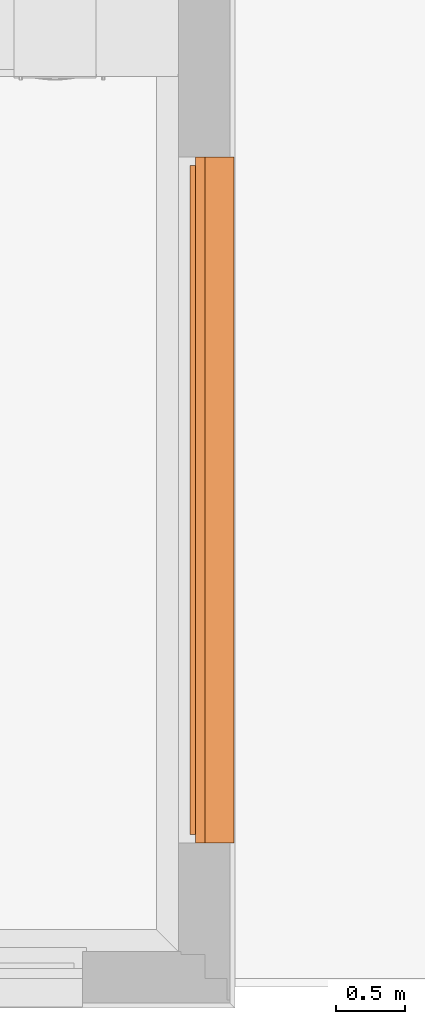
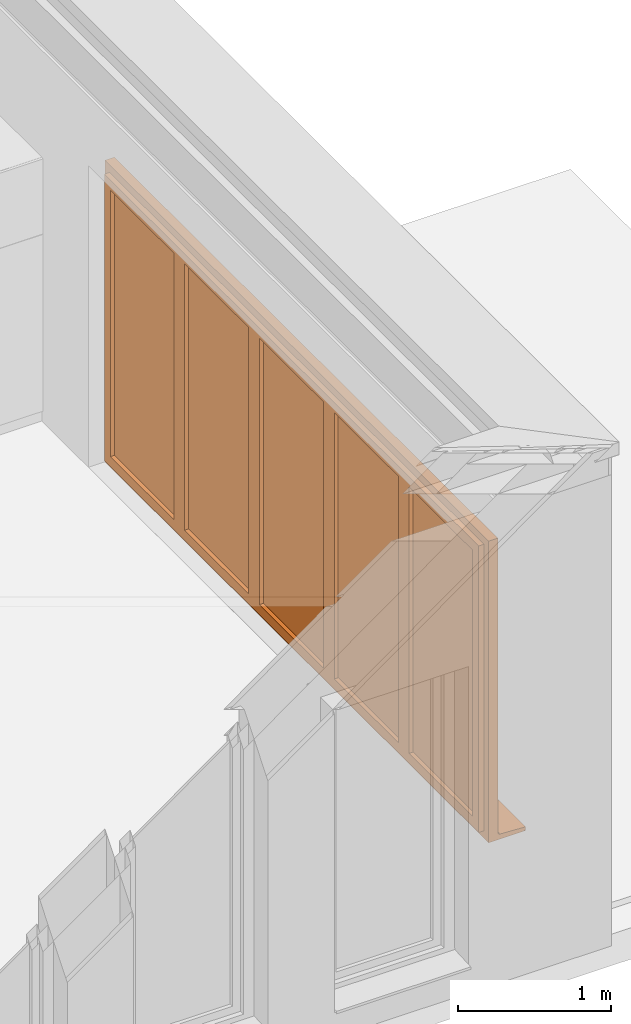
# One storey, part 24 of 28: 1 proxy.
"""IFC4 building model written with IfcOpenShell, lengths in metres."""

from ifc_helpers import new_model, entity, si_unit, converted_unit, derived_unit, direction, frame, origin_with_axes, place, context, subcontext, project, spatial, triangles, type_object, element, save


model = new_model("IFC4")

# Units and contexts
model_context = context("Model", 3, precision=1e-05, world=origin_with_axes(), true_north=direction((-0.526213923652, 0.850352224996)))
body_context = subcontext(model_context, "Body", "Model", "MODEL_VIEW")
ifc_project = project(units=[si_unit("LENGTHUNIT", "METRE"), si_unit("AREAUNIT", "SQUARE_METRE"), si_unit("VOLUMEUNIT", "CUBIC_METRE"), converted_unit("PLANEANGLEUNIT", "DEGREE", entity("IfcPlaneAngleMeasure", 0.0174532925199), si_unit("PLANEANGLEUNIT", "RADIAN"), dimensions=[0, 0, 0, 0, 0, 0, 0]), si_unit("SOLIDANGLEUNIT", "STERADIAN"), converted_unit("TIMEUNIT", "Year", entity("IfcTimeMeasure", 31556926.0), si_unit("TIMEUNIT", "SECOND"), dimensions=[0, 0, 1, 0, 0, 0, 0]), si_unit("MASSUNIT", "GRAM", prefix="KILO"), si_unit("THERMODYNAMICTEMPERATUREUNIT", "DEGREE_CELSIUS"), si_unit("LUMINOUSINTENSITYUNIT", "LUMEN"), si_unit("ENERGYUNIT", "JOULE", prefix="MEGA"), derived_unit("THERMALCONDUCTANCEUNIT", [(si_unit("POWERUNIT", "WATT"), 1), (si_unit("LENGTHUNIT", "METRE"), -1), (si_unit("THERMODYNAMICTEMPERATUREUNIT", "KELVIN"), -1)]), derived_unit("SPECIFICHEATCAPACITYUNIT", [(si_unit("ENERGYUNIT", "JOULE"), 1), (si_unit("MASSUNIT", "GRAM", prefix="KILO"), -1), (si_unit("THERMODYNAMICTEMPERATUREUNIT", "KELVIN"), -1)]), derived_unit("MASSDENSITYUNIT", [(si_unit("MASSUNIT", "GRAM", prefix="KILO"), 1), (si_unit("VOLUMEUNIT", "CUBIC_METRE"), -1)])], contexts=[model_context])

# Site, building, storey
site_placement = place(None, origin_with_axes())
site = spatial("IfcSite", under=ifc_project, at=site_placement, Name="Gelände", CompositionType="ELEMENT")
building_placement = place(site_placement, origin_with_axes())
building = spatial("IfcBuilding", under=site, at=building_placement, Name="Haus vom Nikolaus", CompositionType="ELEMENT")
storey_placement = place(building_placement, origin_with_axes())
storey = spatial("IfcBuildingStorey", under=building, at=storey_placement, Name="EG", CompositionType="ELEMENT", Elevation=0.0)

# Proxy
building_element_proxy_type = type_object("IfcBuildingElementProxyType", Name="5-Flügelfenster 22", PredefinedType="NOTDEFINED")
proxy_placement = place(storey_placement, frame((11.0649976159, 1.05243985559, 0.2), z_axis=(0.0, 0.0, 1.0), x_axis=(0.0, 1.0, 0.0)))
element("IfcBuildingElementProxy", 1, at=proxy_placement, inside=storey, type_object=building_element_proxy_type, Name="Fenster-010", PredefinedType="NOTDEFINED", context=body_context, shape_type="Tessellation", body=[
    triangles([(5.0, -0.195, 0.05), (0.0, -0.195, 0.0), (0.0, -0.195, 0.05), (5.0, -0.195, 0.0), (0.0, -0.205, 0.04), (0.0, -0.388, 0.0), (0.0, -0.388, 0.007), (0.0, -0.405, 0.03), (0.0, -0.395, 0.007), (0.0, -0.405, 0.0), (0.0, -0.395, 0.0), (0.0, -0.205, 0.05), (5.0, -0.205, 0.05), (5.0, -0.388, 0.0), (5.0, -0.205, 0.04), (5.0, -0.388, 0.007), (5.0, -0.395, 0.007), (5.0, -0.405, 0.0), (5.0, -0.395, 0.0), (5.0, -0.405, 0.03)], [[1, 2, 3], [1, 4, 2], [3, 2, 5], [5, 6, 7], [8, 7, 9], [10, 8, 9], [10, 9, 11], [6, 5, 2], [3, 5, 12], [8, 5, 7], [13, 3, 12], [13, 1, 3], [14, 15, 16], [15, 1, 13], [17, 18, 19], [1, 15, 4], [15, 20, 16], [15, 14, 4], [16, 20, 17], [18, 17, 20], [4, 6, 2], [4, 14, 6], [14, 7, 6], [14, 16, 7], [16, 9, 7], [16, 17, 9], [17, 11, 9], [17, 19, 11], [19, 10, 11], [19, 18, 10], [18, 8, 10], [18, 20, 8], [20, 5, 8], [20, 15, 5], [15, 12, 5], [15, 13, 12]], closed=True),
    triangles([(0.08, -0.125, 0.08), (0.0, -0.195, 0.0), (0.0, -0.125, 0.0), (0.08, -0.195, 0.08), (0.0, -0.125, 2.4), (0.0, -0.195, 2.4), (0.08, -0.125, 2.32), (0.08, -0.195, 2.32)], [[1, 2, 3], [1, 4, 2], [2, 5, 3], [5, 2, 6], [7, 3, 5], [7, 1, 3], [7, 4, 1], [7, 8, 4], [6, 2, 8], [8, 2, 4], [5, 8, 7], [5, 6, 8]], closed=True),
    triangles([(5.0, -0.125, 2.4), (5.0, -0.195, 0.0), (5.0, -0.125, 0.0), (5.0, -0.195, 2.4), (4.92, -0.195, 0.08), (4.92, -0.125, 0.08), (4.92, -0.125, 2.32), (4.92, -0.195, 2.32)], [[1, 2, 3], [1, 4, 2], [3, 5, 6], [3, 2, 5], [1, 3, 7], [7, 3, 6], [8, 1, 7], [1, 8, 4], [8, 2, 4], [8, 5, 2], [6, 8, 7], [6, 5, 8]], closed=True),
    triangles([(5.0, -0.125, 0.0), (0.0, -0.195, 0.0), (0.0, -0.125, 0.0), (5.0, -0.195, 0.0), (0.08, -0.195, 0.08), (0.08, -0.125, 0.08), (2.5, -0.125, 0.08), (4.92, -0.125, 0.08), (4.92, -0.195, 0.08), (2.5, -0.195, 0.08)], [[1, 2, 3], [1, 4, 2], [3, 5, 6], [3, 2, 5], [1, 3, 7], [7, 3, 6], [1, 7, 8], [9, 1, 8], [1, 9, 4], [10, 4, 9], [5, 2, 10], [4, 10, 2], [5, 7, 6], [7, 5, 10], [7, 9, 8], [7, 10, 9]], closed=True),
    triangles([(0.08, -0.125, 2.32), (0.0, -0.195, 2.4), (0.0, -0.125, 2.4), (0.08, -0.195, 2.32), (5.0, -0.195, 2.4), (5.0, -0.125, 2.4), (2.5, -0.125, 2.32), (4.92, -0.125, 2.32), (2.5, -0.195, 2.32), (4.92, -0.195, 2.32)], [[1, 2, 3], [1, 4, 2], [3, 5, 6], [3, 2, 5], [7, 6, 8], [1, 3, 7], [6, 7, 3], [7, 4, 1], [7, 9, 4], [5, 2, 9], [9, 2, 4], [5, 9, 10], [6, 10, 8], [6, 5, 10], [8, 9, 7], [8, 10, 9]], closed=True),
    triangles([(0.14, -0.085, 0.14), (0.06, -0.125, 0.06), (0.06, -0.085, 0.06), (0.14, -0.125, 0.14), (0.06, -0.125, 2.34), (0.06, -0.085, 2.34), (0.14, -0.085, 2.26), (0.14, -0.125, 2.26)], [[1, 2, 3], [1, 4, 2], [3, 5, 6], [3, 2, 5], [7, 3, 6], [7, 1, 3], [7, 4, 1], [7, 8, 4], [5, 2, 8], [8, 2, 4], [6, 8, 7], [6, 5, 8]], closed=True),
    triangles([(0.966, -0.085, 0.14), (1.046, -0.125, 0.06), (0.966, -0.125, 0.14), (1.046, -0.085, 0.06), (0.966, -0.125, 2.26), (1.046, -0.125, 2.34), (0.966, -0.085, 2.26), (1.046, -0.085, 2.34)], [[1, 2, 3], [1, 4, 2], [5, 2, 6], [5, 3, 2], [7, 3, 5], [7, 1, 3], [8, 4, 7], [7, 4, 1], [4, 6, 2], [4, 8, 6], [8, 5, 6], [8, 7, 5]], closed=True),
    triangles([(1.046, -0.085, 0.06), (0.06, -0.125, 0.06), (0.06, -0.085, 0.06), (1.046, -0.125, 0.06), (0.14, -0.125, 0.14), (0.14, -0.085, 0.14), (0.966, -0.085, 0.14), (0.966, -0.125, 0.14)], [[1, 2, 3], [1, 4, 2], [3, 5, 6], [3, 2, 5], [1, 3, 7], [7, 3, 6], [7, 4, 1], [7, 8, 4], [5, 4, 8], [4, 5, 2], [6, 8, 7], [6, 5, 8]], closed=True),
    triangles([(1.046, -0.085, 2.34), (0.06, -0.125, 2.34), (1.046, -0.125, 2.34), (0.06, -0.085, 2.34), (0.14, -0.125, 2.26), (0.966, -0.125, 2.26), (0.966, -0.085, 2.26), (0.14, -0.085, 2.26)], [[1, 2, 3], [1, 4, 2], [5, 3, 2], [3, 5, 6], [1, 6, 7], [6, 1, 3], [7, 4, 1], [7, 8, 4], [4, 5, 2], [4, 8, 5], [8, 6, 5], [8, 7, 6]], closed=True),
    triangles([(0.14, -0.125, 0.14), (0.08, -0.155, 0.08), (0.08, -0.125, 0.08), (0.14, -0.155, 0.14), (0.08, -0.155, 2.32), (0.08, -0.125, 2.32), (0.14, -0.125, 2.26), (0.14, -0.155, 2.26)], [[1, 2, 3], [1, 4, 2], [3, 5, 6], [3, 2, 5], [7, 3, 6], [7, 1, 3], [7, 4, 1], [7, 8, 4], [5, 2, 8], [8, 2, 4], [6, 8, 7], [6, 5, 8]], closed=True),
    triangles([(0.966, -0.125, 0.14), (1.026, -0.155, 0.08), (0.966, -0.155, 0.14), (1.026, -0.125, 0.08), (1.026, -0.155, 2.32), (0.966, -0.155, 2.26), (0.966, -0.125, 2.26), (1.026, -0.125, 2.32)], [[1, 2, 3], [1, 4, 2], [3, 5, 6], [5, 3, 2], [7, 3, 6], [7, 1, 3], [8, 4, 7], [7, 4, 1], [4, 5, 2], [4, 8, 5], [8, 6, 5], [8, 7, 6]], closed=True),
    triangles([(1.026, -0.125, 0.08), (0.08, -0.155, 0.08), (0.08, -0.125, 0.08), (1.026, -0.155, 0.08), (0.14, -0.155, 0.14), (0.14, -0.125, 0.14), (0.966, -0.125, 0.14), (0.966, -0.155, 0.14)], [[1, 2, 3], [1, 4, 2], [3, 5, 6], [3, 2, 5], [1, 3, 7], [7, 3, 6], [7, 4, 1], [7, 8, 4], [5, 4, 8], [4, 5, 2], [6, 8, 7], [6, 5, 8]], closed=True),
    triangles([(1.026, -0.125, 2.32), (0.08, -0.155, 2.32), (1.026, -0.155, 2.32), (0.08, -0.125, 2.32), (0.14, -0.155, 2.26), (0.966, -0.155, 2.26), (0.966, -0.125, 2.26), (0.14, -0.125, 2.26)], [[1, 2, 3], [1, 4, 2], [5, 3, 2], [3, 5, 6], [7, 3, 6], [7, 1, 3], [7, 4, 1], [7, 8, 4], [4, 5, 2], [4, 8, 5], [8, 6, 5], [8, 7, 6]], closed=True),
    triangles([(0.966, -0.115, 0.14), (0.14, -0.125, 0.14), (0.14, -0.115, 0.14), (0.966, -0.125, 0.14), (0.14, -0.125, 2.26), (0.14, -0.115, 2.26), (0.966, -0.115, 2.26), (0.966, -0.125, 2.26)], [[1, 2, 3], [1, 4, 2], [3, 5, 6], [3, 2, 5], [7, 3, 6], [7, 1, 3], [7, 4, 1], [7, 8, 4], [8, 2, 4], [8, 5, 2], [6, 8, 7], [6, 5, 8]], closed=True),
    triangles([(1.106, -0.085, 0.14), (1.046, -0.125, 0.06), (1.046, -0.085, 0.06), (1.106, -0.125, 0.14), (1.046, -0.125, 2.34), (1.046, -0.085, 2.34), (1.106, -0.085, 2.26), (1.106, -0.125, 2.26)], [[1, 2, 3], [1, 4, 2], [3, 5, 6], [3, 2, 5], [7, 3, 6], [7, 1, 3], [7, 4, 1], [7, 8, 4], [5, 2, 8], [8, 2, 4], [6, 8, 7], [6, 5, 8]], closed=True),
    triangles([(2.002, -0.085, 2.34), (2.002, -0.125, 0.06), (2.002, -0.085, 0.06), (2.002, -0.125, 2.34), (1.942, -0.125, 0.14), (1.942, -0.085, 0.14), (1.942, -0.085, 2.26), (1.942, -0.125, 2.26)], [[1, 2, 3], [1, 4, 2], [3, 5, 6], [3, 2, 5], [1, 3, 7], [7, 3, 6], [7, 4, 1], [7, 8, 4], [8, 2, 4], [8, 5, 2], [6, 8, 7], [6, 5, 8]], closed=True),
    triangles([(2.002, -0.085, 0.06), (1.046, -0.125, 0.06), (1.046, -0.085, 0.06), (2.002, -0.125, 0.06), (1.106, -0.125, 0.14), (1.106, -0.085, 0.14), (1.942, -0.085, 0.14), (1.942, -0.125, 0.14)], [[1, 2, 3], [1, 4, 2], [3, 5, 6], [3, 2, 5], [1, 3, 7], [7, 3, 6], [7, 4, 1], [7, 8, 4], [8, 2, 4], [8, 5, 2], [6, 8, 7], [6, 5, 8]], closed=True),
    triangles([(1.106, -0.125, 2.26), (1.046, -0.085, 2.34), (1.106, -0.085, 2.26), (1.046, -0.125, 2.34), (2.002, -0.125, 2.34), (2.002, -0.085, 2.34), (1.942, -0.085, 2.26), (1.942, -0.125, 2.26)], [[1, 2, 3], [2, 1, 4], [2, 5, 6], [2, 4, 5], [7, 2, 6], [7, 3, 2], [7, 1, 3], [7, 8, 1], [5, 4, 8], [8, 4, 1], [6, 8, 7], [6, 5, 8]], closed=True),
    triangles([(1.106, -0.125, 0.14), (1.026, -0.155, 0.08), (1.026, -0.125, 0.08), (1.106, -0.155, 0.14), (1.026, -0.155, 2.32), (1.026, -0.125, 2.32), (1.106, -0.125, 2.26), (1.106, -0.155, 2.26)], [[1, 2, 3], [1, 4, 2], [3, 5, 6], [3, 2, 5], [7, 3, 6], [7, 1, 3], [7, 4, 1], [7, 8, 4], [5, 2, 8], [8, 2, 4], [6, 8, 7], [6, 5, 8]], closed=True),
    triangles([(2.022, -0.125, 2.32), (2.022, -0.155, 0.08), (2.022, -0.125, 0.08), (2.022, -0.155, 2.32), (1.942, -0.155, 0.14), (1.942, -0.125, 0.14), (1.942, -0.125, 2.26), (1.942, -0.155, 2.26)], [[1, 2, 3], [1, 4, 2], [3, 5, 6], [3, 2, 5], [1, 3, 7], [7, 3, 6], [7, 4, 1], [7, 8, 4], [8, 2, 4], [8, 5, 2], [6, 8, 7], [6, 5, 8]], closed=True),
    triangles([(2.022, -0.125, 0.08), (1.026, -0.155, 0.08), (1.026, -0.125, 0.08), (2.022, -0.155, 0.08), (1.106, -0.125, 0.14), (1.106, -0.155, 0.14), (1.942, -0.125, 0.14), (1.942, -0.155, 0.14)], [[1, 2, 3], [1, 4, 2], [2, 5, 3], [5, 2, 6], [1, 3, 7], [7, 3, 5], [8, 1, 7], [1, 8, 4], [6, 4, 8], [4, 6, 2], [5, 8, 7], [5, 6, 8]], closed=True),
    triangles([(1.106, -0.125, 2.26), (1.026, -0.155, 2.32), (1.026, -0.125, 2.32), (1.106, -0.155, 2.26), (2.022, -0.155, 2.32), (2.022, -0.125, 2.32), (1.942, -0.125, 2.26), (1.942, -0.155, 2.26)], [[1, 2, 3], [1, 4, 2], [3, 5, 6], [3, 2, 5], [7, 3, 6], [7, 1, 3], [7, 4, 1], [7, 8, 4], [5, 2, 8], [8, 2, 4], [6, 8, 7], [6, 5, 8]], closed=True),
    triangles([(1.942, -0.115, 0.14), (1.106, -0.125, 0.14), (1.106, -0.115, 0.14), (1.942, -0.125, 0.14), (1.106, -0.125, 2.26), (1.106, -0.115, 2.26), (1.942, -0.115, 2.26), (1.942, -0.125, 2.26)], [[1, 2, 3], [1, 4, 2], [3, 5, 6], [3, 2, 5], [7, 3, 6], [7, 1, 3], [7, 4, 1], [7, 8, 4], [8, 2, 4], [8, 5, 2], [6, 8, 7], [6, 5, 8]], closed=True),
    triangles([(2.082, -0.085, 0.14), (2.002, -0.125, 0.06), (2.002, -0.085, 0.06), (2.082, -0.125, 0.14), (2.002, -0.125, 2.34), (2.002, -0.085, 2.34), (2.082, -0.085, 2.26), (2.082, -0.125, 2.26)], [[1, 2, 3], [1, 4, 2], [3, 5, 6], [3, 2, 5], [7, 3, 6], [7, 1, 3], [7, 4, 1], [7, 8, 4], [5, 2, 8], [8, 2, 4], [6, 8, 7], [6, 5, 8]], closed=True),
    triangles([(2.978, -0.085, 2.34), (2.978, -0.125, 0.06), (2.978, -0.085, 0.06), (2.978, -0.125, 2.34), (2.918, -0.125, 0.14), (2.918, -0.085, 0.14), (2.918, -0.085, 2.26), (2.918, -0.125, 2.26)], [[1, 2, 3], [1, 4, 2], [3, 5, 6], [3, 2, 5], [1, 3, 7], [7, 3, 6], [7, 4, 1], [7, 8, 4], [8, 2, 4], [8, 5, 2], [6, 8, 7], [6, 5, 8]], closed=True),
    triangles([(2.978, -0.085, 0.06), (2.002, -0.125, 0.06), (2.002, -0.085, 0.06), (2.978, -0.125, 0.06), (2.082, -0.125, 0.14), (2.082, -0.085, 0.14), (2.918, -0.085, 0.14), (2.918, -0.125, 0.14)], [[1, 2, 3], [1, 4, 2], [3, 5, 6], [3, 2, 5], [6, 1, 3], [1, 6, 7], [7, 4, 1], [7, 8, 4], [5, 4, 8], [4, 5, 2], [5, 7, 6], [7, 5, 8]], closed=True),
    triangles([(2.082, -0.085, 2.26), (2.002, -0.125, 2.34), (2.002, -0.085, 2.34), (2.082, -0.125, 2.26), (2.978, -0.125, 2.34), (2.978, -0.085, 2.34), (2.918, -0.085, 2.26), (2.918, -0.125, 2.26)], [[1, 2, 3], [1, 4, 2], [3, 5, 6], [3, 2, 5], [1, 6, 7], [6, 1, 3], [7, 4, 1], [7, 8, 4], [4, 5, 2], [5, 4, 8], [6, 8, 7], [6, 5, 8]], closed=True),
    triangles([(2.082, -0.125, 0.14), (2.022, -0.155, 0.08), (2.022, -0.125, 0.08), (2.082, -0.155, 0.14), (2.022, -0.155, 2.32), (2.022, -0.125, 2.32), (2.082, -0.125, 2.26), (2.082, -0.155, 2.26)], [[1, 2, 3], [1, 4, 2], [3, 5, 6], [3, 2, 5], [1, 6, 7], [6, 1, 3], [7, 4, 1], [7, 8, 4], [5, 2, 8], [8, 2, 4], [6, 8, 7], [6, 5, 8]], closed=True),
    triangles([(2.998, -0.125, 2.32), (2.998, -0.155, 0.08), (2.998, -0.125, 0.08), (2.998, -0.155, 2.32), (2.918, -0.155, 0.14), (2.918, -0.125, 0.14), (2.918, -0.125, 2.26), (2.918, -0.155, 2.26)], [[1, 2, 3], [1, 4, 2], [3, 5, 6], [3, 2, 5], [1, 3, 7], [7, 3, 6], [7, 4, 1], [7, 8, 4], [8, 2, 4], [8, 5, 2], [6, 8, 7], [6, 5, 8]], closed=True),
    triangles([(2.998, -0.125, 0.08), (2.022, -0.155, 0.08), (2.022, -0.125, 0.08), (2.998, -0.155, 0.08), (2.082, -0.125, 0.14), (2.082, -0.155, 0.14), (2.918, -0.125, 0.14), (2.918, -0.155, 0.14)], [[1, 2, 3], [1, 4, 2], [2, 5, 3], [5, 2, 6], [1, 3, 7], [7, 3, 5], [7, 4, 1], [7, 8, 4], [8, 2, 4], [8, 6, 2], [5, 8, 7], [5, 6, 8]], closed=True),
    triangles([(2.082, -0.155, 2.26), (2.022, -0.125, 2.32), (2.082, -0.125, 2.26), (2.022, -0.155, 2.32), (2.998, -0.125, 2.32), (2.998, -0.155, 2.32), (2.918, -0.125, 2.26), (2.918, -0.155, 2.26)], [[1, 2, 3], [2, 1, 4], [4, 5, 2], [5, 4, 6], [7, 2, 5], [7, 3, 2], [7, 1, 3], [7, 8, 1], [6, 4, 8], [8, 4, 1], [6, 7, 5], [7, 6, 8]], closed=True),
    triangles([(2.918, -0.115, 0.14), (2.082, -0.125, 0.14), (2.082, -0.115, 0.14), (2.918, -0.125, 0.14), (2.082, -0.125, 2.26), (2.082, -0.115, 2.26), (2.918, -0.115, 2.26), (2.918, -0.125, 2.26)], [[1, 2, 3], [1, 4, 2], [3, 5, 6], [3, 2, 5], [7, 3, 6], [7, 1, 3], [7, 4, 1], [7, 8, 4], [8, 2, 4], [8, 5, 2], [6, 8, 7], [6, 5, 8]], closed=True),
    triangles([(3.058, -0.125, 0.14), (2.978, -0.085, 0.06), (3.058, -0.085, 0.14), (2.978, -0.125, 0.06), (2.978, -0.125, 2.34), (2.978, -0.085, 2.34), (3.058, -0.085, 2.26), (3.058, -0.125, 2.26)], [[1, 2, 3], [2, 1, 4], [2, 5, 6], [2, 4, 5], [7, 2, 6], [7, 3, 2], [7, 1, 3], [7, 8, 1], [5, 4, 8], [8, 4, 1], [6, 8, 7], [6, 5, 8]], closed=True),
    triangles([(3.954, -0.085, 2.34), (3.954, -0.125, 0.06), (3.954, -0.085, 0.06), (3.954, -0.125, 2.34), (3.894, -0.125, 0.14), (3.894, -0.085, 0.14), (3.894, -0.085, 2.26), (3.894, -0.125, 2.26)], [[1, 2, 3], [1, 4, 2], [3, 5, 6], [3, 2, 5], [1, 3, 7], [7, 3, 6], [8, 1, 7], [1, 8, 4], [8, 2, 4], [8, 5, 2], [6, 8, 7], [6, 5, 8]], closed=True),
    triangles([(3.954, -0.085, 0.06), (2.978, -0.125, 0.06), (2.978, -0.085, 0.06), (3.954, -0.125, 0.06), (3.058, -0.125, 0.14), (3.058, -0.085, 0.14), (3.894, -0.085, 0.14), (3.894, -0.125, 0.14)], [[1, 2, 3], [1, 4, 2], [3, 5, 6], [3, 2, 5], [6, 1, 3], [1, 6, 7], [7, 4, 1], [7, 8, 4], [5, 4, 8], [4, 5, 2], [6, 8, 7], [6, 5, 8]], closed=True),
    triangles([(3.058, -0.085, 2.26), (2.978, -0.125, 2.34), (2.978, -0.085, 2.34), (3.058, -0.125, 2.26), (3.954, -0.125, 2.34), (3.954, -0.085, 2.34), (3.894, -0.085, 2.26), (3.894, -0.125, 2.26)], [[1, 2, 3], [1, 4, 2], [3, 5, 6], [3, 2, 5], [1, 6, 7], [6, 1, 3], [7, 4, 1], [7, 8, 4], [4, 5, 2], [5, 4, 8], [6, 8, 7], [6, 5, 8]], closed=True),
    triangles([(3.058, -0.155, 0.14), (2.998, -0.125, 0.08), (3.058, -0.125, 0.14), (2.998, -0.155, 0.08), (2.998, -0.155, 2.32), (2.998, -0.125, 2.32), (3.058, -0.125, 2.26), (3.058, -0.155, 2.26)], [[1, 2, 3], [2, 1, 4], [2, 5, 6], [2, 4, 5], [7, 2, 6], [7, 3, 2], [7, 1, 3], [7, 8, 1], [1, 5, 4], [5, 1, 8], [5, 7, 6], [7, 5, 8]], closed=True),
    triangles([(3.974, -0.125, 2.32), (3.974, -0.155, 0.08), (3.974, -0.125, 0.08), (3.974, -0.155, 2.32), (3.894, -0.155, 0.14), (3.894, -0.125, 0.14), (3.894, -0.125, 2.26), (3.894, -0.155, 2.26)], [[1, 2, 3], [1, 4, 2], [3, 5, 6], [3, 2, 5], [1, 3, 7], [7, 3, 6], [7, 4, 1], [7, 8, 4], [8, 2, 4], [8, 5, 2], [6, 8, 7], [6, 5, 8]], closed=True),
    triangles([(3.974, -0.125, 0.08), (2.998, -0.155, 0.08), (2.998, -0.125, 0.08), (3.974, -0.155, 0.08), (3.058, -0.155, 0.14), (3.058, -0.125, 0.14), (3.894, -0.125, 0.14), (3.894, -0.155, 0.14)], [[1, 2, 3], [1, 4, 2], [3, 5, 6], [3, 2, 5], [1, 3, 7], [7, 3, 6], [7, 4, 1], [7, 8, 4], [8, 2, 4], [8, 5, 2], [5, 7, 6], [7, 5, 8]], closed=True),
    triangles([(3.058, -0.125, 2.26), (2.998, -0.155, 2.32), (2.998, -0.125, 2.32), (3.058, -0.155, 2.26), (3.974, -0.155, 2.32), (3.974, -0.125, 2.32), (3.894, -0.125, 2.26), (3.894, -0.155, 2.26)], [[1, 2, 3], [1, 4, 2], [3, 5, 6], [3, 2, 5], [7, 3, 6], [7, 1, 3], [7, 4, 1], [7, 8, 4], [5, 2, 8], [8, 2, 4], [5, 7, 6], [7, 5, 8]], closed=True),
    triangles([(3.894, -0.115, 0.14), (3.058, -0.125, 0.14), (3.058, -0.115, 0.14), (3.894, -0.125, 0.14), (3.058, -0.125, 2.26), (3.058, -0.115, 2.26), (3.894, -0.115, 2.26), (3.894, -0.125, 2.26)], [[1, 2, 3], [1, 4, 2], [3, 5, 6], [3, 2, 5], [7, 3, 6], [7, 1, 3], [7, 4, 1], [7, 8, 4], [8, 2, 4], [8, 5, 2], [6, 8, 7], [6, 5, 8]], closed=True),
    triangles([(4.034, -0.125, 0.14), (3.954, -0.085, 0.06), (4.034, -0.085, 0.14), (3.954, -0.125, 0.06), (3.954, -0.125, 2.34), (3.954, -0.085, 2.34), (4.034, -0.085, 2.26), (4.034, -0.125, 2.26)], [[1, 2, 3], [2, 1, 4], [2, 5, 6], [2, 4, 5], [7, 2, 6], [7, 3, 2], [7, 1, 3], [7, 8, 1], [5, 4, 8], [8, 4, 1], [6, 8, 7], [6, 5, 8]], closed=True),
    triangles([(4.86, -0.085, 0.14), (4.94, -0.125, 0.06), (4.86, -0.125, 0.14), (4.94, -0.085, 0.06), (4.86, -0.125, 2.26), (4.94, -0.125, 2.34), (4.86, -0.085, 2.26), (4.94, -0.085, 2.34)], [[1, 2, 3], [1, 4, 2], [5, 2, 6], [5, 3, 2], [7, 3, 5], [7, 1, 3], [8, 4, 7], [7, 4, 1], [4, 6, 2], [4, 8, 6], [8, 5, 6], [8, 7, 5]], closed=True),
    triangles([(4.94, -0.085, 0.06), (3.954, -0.125, 0.06), (3.954, -0.085, 0.06), (4.94, -0.125, 0.06), (4.034, -0.125, 0.14), (4.034, -0.085, 0.14), (4.86, -0.085, 0.14), (4.86, -0.125, 0.14)], [[1, 2, 3], [1, 4, 2], [3, 5, 6], [3, 2, 5], [6, 1, 3], [1, 6, 7], [7, 4, 1], [7, 8, 4], [5, 4, 8], [4, 5, 2], [6, 8, 7], [6, 5, 8]], closed=True),
    triangles([(4.94, -0.085, 2.34), (3.954, -0.125, 2.34), (4.94, -0.125, 2.34), (3.954, -0.085, 2.34), (4.86, -0.125, 2.26), (4.034, -0.125, 2.26), (4.86, -0.085, 2.26), (4.034, -0.085, 2.26)], [[1, 2, 3], [1, 4, 2], [3, 2, 5], [5, 2, 6], [1, 5, 7], [5, 1, 3], [7, 4, 1], [7, 8, 4], [4, 6, 2], [4, 8, 6], [8, 5, 6], [8, 7, 5]], closed=True),
    triangles([(4.034, -0.155, 0.14), (3.974, -0.125, 0.08), (4.034, -0.125, 0.14), (3.974, -0.155, 0.08), (3.974, -0.155, 2.32), (3.974, -0.125, 2.32), (4.034, -0.125, 2.26), (4.034, -0.155, 2.26)], [[1, 2, 3], [2, 1, 4], [2, 5, 6], [2, 4, 5], [7, 2, 6], [7, 3, 2], [7, 1, 3], [7, 8, 1], [1, 5, 4], [5, 1, 8], [5, 7, 6], [7, 5, 8]], closed=True),
    triangles([(4.86, -0.125, 0.14), (4.92, -0.155, 0.08), (4.86, -0.155, 0.14), (4.92, -0.125, 0.08), (4.86, -0.155, 2.26), (4.92, -0.155, 2.32), (4.86, -0.125, 2.26), (4.92, -0.125, 2.32)], [[1, 2, 3], [1, 4, 2], [5, 2, 6], [5, 3, 2], [7, 3, 5], [7, 1, 3], [8, 4, 7], [7, 4, 1], [4, 6, 2], [4, 8, 6], [7, 6, 8], [6, 7, 5]], closed=True),
    triangles([(4.92, -0.125, 0.08), (3.974, -0.155, 0.08), (3.974, -0.125, 0.08), (4.92, -0.155, 0.08), (4.034, -0.155, 0.14), (4.034, -0.125, 0.14), (4.86, -0.125, 0.14), (4.86, -0.155, 0.14)], [[1, 2, 3], [1, 4, 2], [3, 5, 6], [3, 2, 5], [1, 3, 7], [7, 3, 6], [7, 4, 1], [7, 8, 4], [8, 2, 4], [8, 5, 2], [6, 8, 7], [6, 5, 8]], closed=True),
    triangles([(4.92, -0.125, 2.32), (3.974, -0.155, 2.32), (4.92, -0.155, 2.32), (3.974, -0.125, 2.32), (4.86, -0.155, 2.26), (4.034, -0.155, 2.26), (4.86, -0.125, 2.26), (4.034, -0.125, 2.26)], [[1, 2, 3], [1, 4, 2], [3, 2, 5], [5, 2, 6], [7, 3, 5], [7, 1, 3], [7, 4, 1], [7, 8, 4], [4, 6, 2], [4, 8, 6], [8, 5, 6], [8, 7, 5]], closed=True),
    triangles([(4.86, -0.115, 0.14), (4.034, -0.125, 0.14), (4.034, -0.115, 0.14), (4.86, -0.125, 0.14), (4.034, -0.125, 2.26), (4.034, -0.115, 2.26), (4.86, -0.115, 2.26), (4.86, -0.125, 2.26)], [[1, 2, 3], [1, 4, 2], [3, 5, 6], [3, 2, 5], [7, 3, 6], [7, 1, 3], [7, 4, 1], [7, 8, 4], [8, 2, 4], [8, 5, 2], [6, 8, 7], [6, 5, 8]], closed=True),
])

save(model, "model.ifc")
